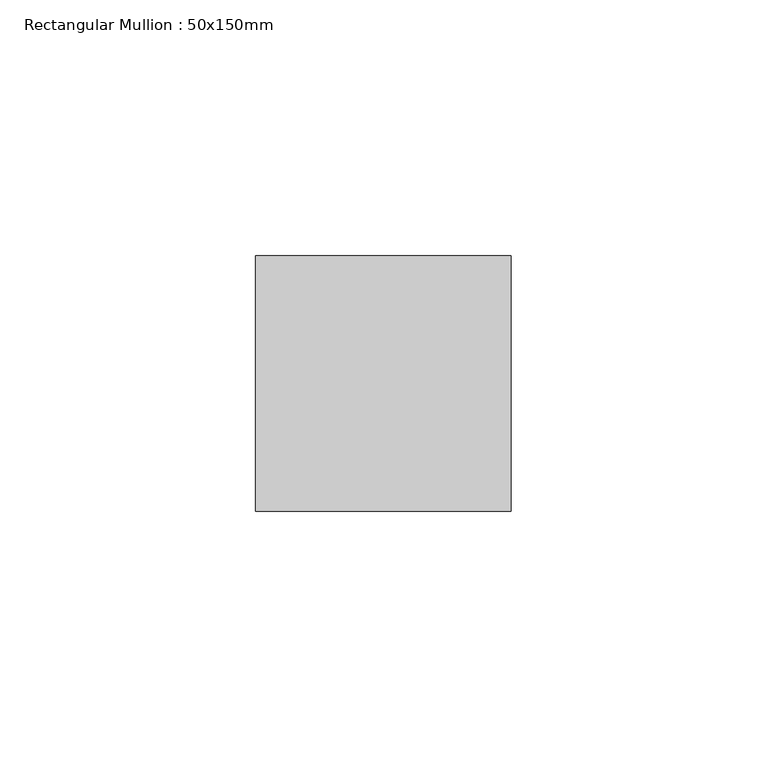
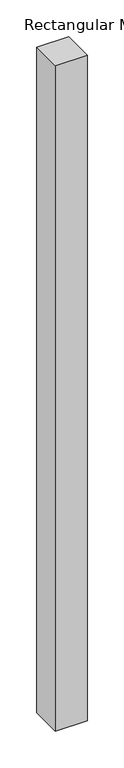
"""IFC4 building model written with IfcOpenShell, lengths in millimetres: member geometry, Rectangular Mullion : 50x150mm."""

from ifc_helpers import new_model, si_unit, frame, origin, place, context, project, spatial, polyline, outline, extrude, source, transform, mapped, element, save


def rectangular_mullion_50x150mm_d93cb402(model_context):
    return source(origin(), model_context, "Body", "SweptSolid", [
        extrude(outline(polyline([(0.0, 25.0), (0.0, -25.0), (-50.0, -25.0), (-50.0, 25.0), (0.0, 25.0)])), frame((0.0, 0.0, -1102.7495722), z_axis=(0.0, 0.0, 1.0), x_axis=(1.0, 0.0, 0.0)), (0.0, 0.0, 1.0), 1102.7495722),
    ])


if __name__ == "__main__":
    model = new_model("IFC4")
    model_context = context("Model", 3, world=origin())
    ifc_project = project(units=[si_unit("LENGTHUNIT", "METRE", prefix="MILLI")], contexts=[model_context])
    site = spatial("IfcSite", under=ifc_project)
    building = spatial("IfcBuilding", under=site)
    placement = place(None, origin())
    rectangular_mullion_50x150mm_shape = rectangular_mullion_50x150mm_d93cb402(model_context)
    element("IfcMember", 1, ObjectType="Rectangular Mullion : 50x150mm", at=placement, inside=building, context=model_context, shape_type="MappedRepresentation", body=[
        mapped(rectangular_mullion_50x150mm_shape, transform((0.0, 0.0, 0.0), x_axis=(1.0, 0.0, 0.0), y_axis=(0.0, 1.0, 0.0), z_axis=(0.0, 0.0, 1.0))),
    ])
    save(model, "model.ifc")
